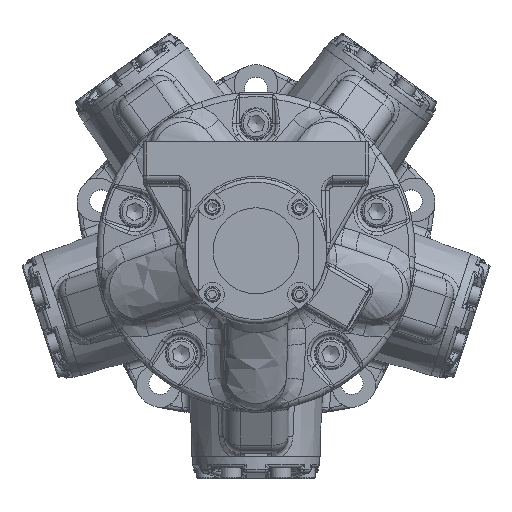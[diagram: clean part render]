
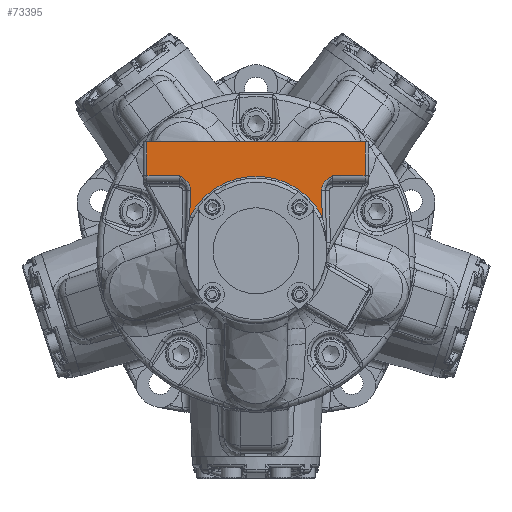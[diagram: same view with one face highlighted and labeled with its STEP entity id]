
A CAD part, top view. The second image highlights one B-rep face of the part: STEP entity #73395.
In plain terms, the highlighted planar face has unit normal (0, 0, 1).
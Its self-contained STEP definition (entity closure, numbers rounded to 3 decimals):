
#5999=B_SPLINE_CURVE_WITH_KNOTS('',3,(#195255,#195256,#195257,#195258,#195259,
#195260,#195261,#195262,#195263,#195264,#195265,#195266),.UNSPECIFIED.,
 .F.,.F.,(4,2,1,1,1,1,1,1,4),(-0.001,0.,0.309,
0.463,0.617,0.771,0.926,1.234,
1.543),.UNSPECIFIED.);
#6002=B_SPLINE_CURVE_WITH_KNOTS('',3,(#195394,#195395,#195396,#195397,#195398,
#195399,#195400,#195401,#195402,#195403,#195404),.UNSPECIFIED.,.F.,.F.,
(4,1,1,1,1,1,2,4),(0.,0.309,0.617,0.771,
0.926,1.234,1.543,1.544),
 .UNSPECIFIED.);
#10104=LINE('',#195283,#13068);
#10123=LINE('',#196505,#13087);
#10173=LINE('',#197991,#13137);
#10174=LINE('',#197992,#13138);
#10175=LINE('',#197994,#13139);
#10176=LINE('',#197996,#13140);
#10177=LINE('',#197997,#13141);
#13068=VECTOR('',#93483,10.);
#13087=VECTOR('',#93598,10.);
#13137=VECTOR('',#93840,10.);
#13138=VECTOR('',#93841,10.);
#13139=VECTOR('',#93842,10.);
#13140=VECTOR('',#93845,10.);
#13141=VECTOR('',#93846,10.);
#18430=FACE_OUTER_BOUND('',#23020,.T.);
#23020=EDGE_LOOP('',(#63212,#63213,#63214,#63215,#63216,#63217,#63218,#63219,
#63220,#63221));
#26007=CIRCLE('',#79272,59.5);
#32092=VERTEX_POINT('',#195175);
#32095=VERTEX_POINT('',#195253);
#32097=VERTEX_POINT('',#195269);
#32098=VERTEX_POINT('',#195320);
#32102=VERTEX_POINT('',#195393);
#32140=VERTEX_POINT('',#196495);
#32142=VERTEX_POINT('',#196501);
#32169=VERTEX_POINT('',#196695);
#32224=VERTEX_POINT('',#197990);
#32225=VERTEX_POINT('',#197993);
#42369=EDGE_CURVE('',#32092,#32095,#5999,.T.);
#42372=EDGE_CURVE('',#32095,#32097,#10104,.T.);
#42377=EDGE_CURVE('',#32102,#32098,#6002,.T.);
#42450=EDGE_CURVE('',#32140,#32142,#10123,.T.);
#42592=EDGE_CURVE('',#32224,#32142,#10173,.T.);
#42593=EDGE_CURVE('',#32098,#32140,#10174,.T.);
#42594=EDGE_CURVE('',#32225,#32102,#10175,.T.);
#42595=EDGE_CURVE('',#32097,#32225,#26007,.T.);
#42596=EDGE_CURVE('',#32169,#32092,#10176,.T.);
#42597=EDGE_CURVE('',#32224,#32169,#10177,.T.);
#63212=ORIENTED_EDGE('',*,*,#42592,.T.);
#63213=ORIENTED_EDGE('',*,*,#42450,.F.);
#63214=ORIENTED_EDGE('',*,*,#42593,.F.);
#63215=ORIENTED_EDGE('',*,*,#42377,.F.);
#63216=ORIENTED_EDGE('',*,*,#42594,.F.);
#63217=ORIENTED_EDGE('',*,*,#42595,.F.);
#63218=ORIENTED_EDGE('',*,*,#42372,.F.);
#63219=ORIENTED_EDGE('',*,*,#42369,.F.);
#63220=ORIENTED_EDGE('',*,*,#42596,.F.);
#63221=ORIENTED_EDGE('',*,*,#42597,.F.);
#64653=PLANE('',#79271);
#73395=ADVANCED_FACE('',(#18430),#64653,.T.);
#79271=AXIS2_PLACEMENT_3D('',#197989,#93838,#93839);
#79272=AXIS2_PLACEMENT_3D('',#197995,#93843,#93844);
#93483=DIRECTION('',(0.025,-1.,0.));
#93598=DIRECTION('',(0.,1.,0.));
#93838=DIRECTION('center_axis',(0.,0.,1.));
#93839=DIRECTION('ref_axis',(-1.,0.,0.));
#93840=DIRECTION('',(-1.,0.,0.));
#93841=DIRECTION('',(-1.,0.,0.));
#93842=DIRECTION('',(0.025,1.,0.));
#93843=DIRECTION('center_axis',(0.,0.,1.));
#93844=DIRECTION('ref_axis',(0.,1.,0.));
#93845=DIRECTION('',(-1.,0.,0.));
#93846=DIRECTION('',(0.,-1.,0.));
#195175=CARTESIAN_POINT('',(61.019,60.,279.658));
#195253=CARTESIAN_POINT('',(52.312,48.156,279.658));
#195255=CARTESIAN_POINT('Ctrl Pts',(61.019,60.,279.658));
#195256=CARTESIAN_POINT('Ctrl Pts',(61.015,59.998,279.658));
#195257=CARTESIAN_POINT('Ctrl Pts',(61.011,59.995,279.658));
#195258=CARTESIAN_POINT('Ctrl Pts',(60.13,59.456,279.658));
#195259=CARTESIAN_POINT('Ctrl Pts',(58.814,58.649,279.658));
#195260=CARTESIAN_POINT('Ctrl Pts',(57.154,57.43,279.658));
#195261=CARTESIAN_POINT('Ctrl Pts',(55.978,56.411,279.658));
#195262=CARTESIAN_POINT('Ctrl Pts',(54.919,55.29,279.658));
#195263=CARTESIAN_POINT('Ctrl Pts',(53.683,53.624,279.658));
#195264=CARTESIAN_POINT('Ctrl Pts',(52.574,51.271,279.658));
#195265=CARTESIAN_POINT('Ctrl Pts',(52.286,49.184,279.658));
#195266=CARTESIAN_POINT('Ctrl Pts',(52.312,48.156,279.658));
#195269=CARTESIAN_POINT('',(52.832,27.368,279.658));
#195283=CARTESIAN_POINT('',(52.33,47.435,279.658));
#195320=CARTESIAN_POINT('',(-61.019,60.,279.658));
#195393=CARTESIAN_POINT('',(-52.312,48.156,279.658));
#195394=CARTESIAN_POINT('Ctrl Pts',(-52.312,48.156,279.658));
#195395=CARTESIAN_POINT('Ctrl Pts',(-52.286,49.184,
279.658));
#195396=CARTESIAN_POINT('Ctrl Pts',(-52.574,51.271,
279.658));
#195397=CARTESIAN_POINT('Ctrl Pts',(-53.684,53.624,
279.658));
#195398=CARTESIAN_POINT('Ctrl Pts',(-54.919,55.289,
279.658));
#195399=CARTESIAN_POINT('Ctrl Pts',(-56.335,56.79,
279.658));
#195400=CARTESIAN_POINT('Ctrl Pts',(-58.378,58.384,
279.658));
#195401=CARTESIAN_POINT('Ctrl Pts',(-60.13,59.456,
279.658));
#195402=CARTESIAN_POINT('Ctrl Pts',(-61.011,59.995,
279.658));
#195403=CARTESIAN_POINT('Ctrl Pts',(-61.015,59.998,
279.658));
#195404=CARTESIAN_POINT('Ctrl Pts',(-61.019,60.,279.658));
#196495=CARTESIAN_POINT('',(-87.,60.,279.658));
#196501=CARTESIAN_POINT('',(-87.,87.1,279.658));
#196505=CARTESIAN_POINT('',(-87.,90.,279.658));
#196695=CARTESIAN_POINT('',(87.,60.,279.658));
#197989=CARTESIAN_POINT('Origin',(-90.,90.,279.658));
#197990=CARTESIAN_POINT('',(87.,87.1,279.658));
#197991=CARTESIAN_POINT('',(-40.349,87.1,279.658));
#197992=CARTESIAN_POINT('',(-45.,60.,279.658));
#197993=CARTESIAN_POINT('',(-52.832,27.368,279.658));
#197994=CARTESIAN_POINT('',(-52.386,45.185,279.658));
#197995=CARTESIAN_POINT('Origin',(0.,0.,279.658));
#197996=CARTESIAN_POINT('',(-45.,60.,279.658));
#197997=CARTESIAN_POINT('',(87.,90.,279.658));
